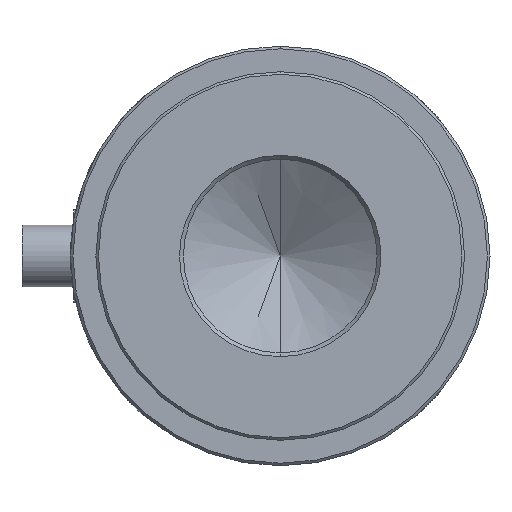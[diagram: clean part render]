
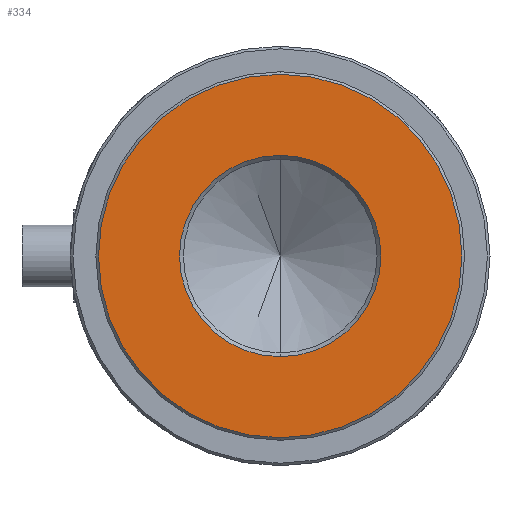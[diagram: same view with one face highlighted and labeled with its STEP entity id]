
A CAD part, front view. The second image highlights one B-rep face of the part: STEP entity #334.
In plain terms, the highlighted planar face has unit normal (0, -1, 0).
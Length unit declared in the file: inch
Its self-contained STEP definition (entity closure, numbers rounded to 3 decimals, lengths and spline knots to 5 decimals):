
#51 = EDGE_CURVE ( 'NONE', #739, #740, #1080, .T. ) ;
#71 = PLANE ( 'NONE',  #1280 ) ;
#76 = CARTESIAN_POINT ( 'NONE',  ( 0., -0.04, 0. ) ) ;
#80 = DIRECTION ( 'NONE',  ( 0., -1., 0. ) ) ;
#83 = DIRECTION ( 'NONE',  ( 0., 0., -1. ) ) ;
#124 = DIRECTION ( 'NONE',  ( 0., -1., 0. ) ) ;
#127 = DIRECTION ( 'NONE',  ( 0., 0., -1. ) ) ;
#134 = CARTESIAN_POINT ( 'NONE',  ( 0., -0.04, 0. ) ) ;
#168 = CARTESIAN_POINT ( 'NONE',  ( 0., -0.04, 0.78 ) ) ;
#174 = CARTESIAN_POINT ( 'NONE',  ( 0., -0.04, -0.78 ) ) ;
#233 = CARTESIAN_POINT ( 'NONE',  ( 0., -0.04, 0. ) ) ;
#234 = DIRECTION ( 'NONE',  ( 0., -1., 0. ) ) ;
#295 = DIRECTION ( 'NONE',  ( 0., 0., -1. ) ) ;
#334 = ADVANCED_FACE ( 'NONE', ( #1046, #1066 ), #71, .T. ) ;
#367 = AXIS2_PLACEMENT_3D ( 'NONE', #233, #234, #295 ) ;
#456 = DIRECTION ( 'NONE',  ( 0., -1., 0. ) ) ;
#461 = CARTESIAN_POINT ( 'NONE',  ( 0., -0.04, 0. ) ) ;
#483 = CARTESIAN_POINT ( 'NONE',  ( 0., -0.04, 0. ) ) ;
#484 = DIRECTION ( 'NONE',  ( 0., -1., 0. ) ) ;
#485 = DIRECTION ( 'NONE',  ( 0., 0., -1. ) ) ;
#490 = DIRECTION ( 'NONE',  ( 0., 0., -1. ) ) ;
#596 = EDGE_CURVE ( 'NONE', #740, #739, #1099, .T. ) ;
#597 = EDGE_CURVE ( 'NONE', #1411, #1407, #1113, .T. ) ;
#618 = AXIS2_PLACEMENT_3D ( 'NONE', #134, #124, #127 ) ;
#739 = VERTEX_POINT ( 'NONE', #168 ) ;
#740 = VERTEX_POINT ( 'NONE', #174 ) ;
#766 = AXIS2_PLACEMENT_3D ( 'NONE', #483, #484, #490 ) ;
#767 = AXIS2_PLACEMENT_3D ( 'NONE', #461, #456, #485 ) ;
#860 = CARTESIAN_POINT ( 'NONE',  ( 0., -0.04, -1.4075 ) ) ;
#861 = CARTESIAN_POINT ( 'NONE',  ( 0., -0.04, 1.4075 ) ) ;
#1013 = EDGE_LOOP ( 'NONE', ( #1312, #1316 ) ) ;
#1033 = EDGE_LOOP ( 'NONE', ( #1327, #1321 ) ) ;
#1046 = FACE_BOUND ( 'NONE', #1013, .T. ) ;
#1066 = FACE_OUTER_BOUND ( 'NONE', #1033, .T. ) ;
#1080 = CIRCLE ( 'NONE', #618, 0.78 ) ;
#1099 = CIRCLE ( 'NONE', #766, 0.78 ) ;
#1113 = CIRCLE ( 'NONE', #767, 1.4075 ) ;
#1203 = CIRCLE ( 'NONE', #367, 1.4075 ) ;
#1246 = EDGE_CURVE ( 'NONE', #1407, #1411, #1203, .T. ) ;
#1280 = AXIS2_PLACEMENT_3D ( 'NONE', #76, #80, #83 ) ;
#1312 = ORIENTED_EDGE ( 'NONE', *, *, #596, .F. ) ;
#1316 = ORIENTED_EDGE ( 'NONE', *, *, #51, .F. ) ;
#1321 = ORIENTED_EDGE ( 'NONE', *, *, #1246, .T. ) ;
#1327 = ORIENTED_EDGE ( 'NONE', *, *, #597, .T. ) ;
#1407 = VERTEX_POINT ( 'NONE', #860 ) ;
#1411 = VERTEX_POINT ( 'NONE', #861 ) ;
